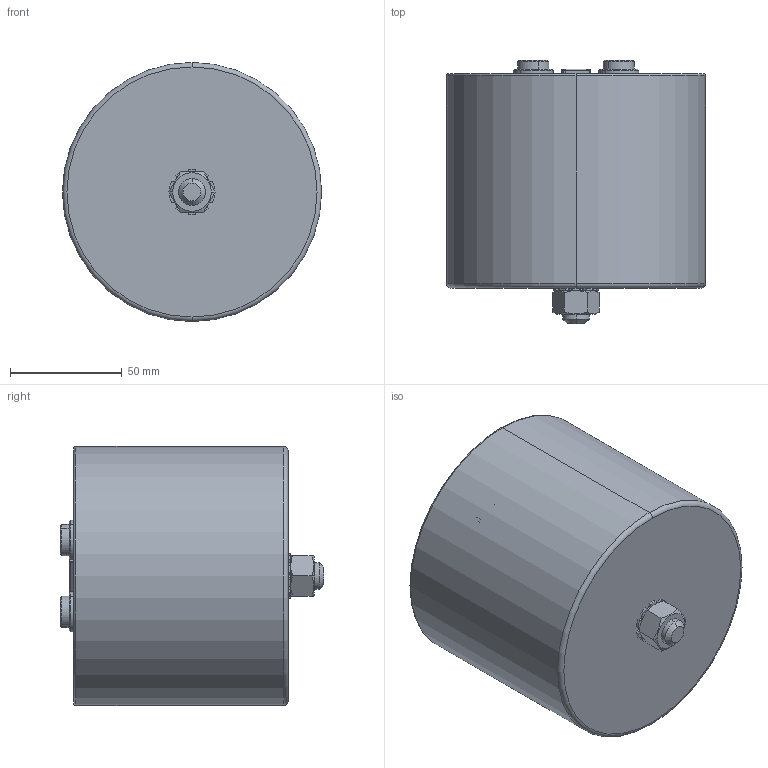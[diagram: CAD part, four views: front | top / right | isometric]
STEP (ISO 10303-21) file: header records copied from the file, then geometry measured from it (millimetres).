
FILE_DESCRIPTION (( 'STEP AP203' ), '1' );
FILE_NAME ('B25690Ax_116x96_102 .STEP', '2021-09-07T03:56:10', ( '' ), ( '' ), 'SwSTEP 2.0', 'SolidWorks 2017', '' );
FILE_SCHEMA (( 'CONFIG_CONTROL_DESIGN' ));
Length unit declared in the file: millimetre
Products named in the file (1): B25690Ax_116x96_102 
Bounding box: 116 x 118 x 116 mm (x, y, z)
Volume: 175794.7 mm3; surface area: 115231.6 mm2
Topology: 1 solids, 3 shells, 263 faces, 675 edges, 423 vertices
Faces by surface type: plane 135, cylinder 76, cone 40, torus 8, sphere 4
Entity records: 8245 total; most frequent: CARTESIAN_POINT 1902, DIRECTION 1342, ORIENTED_EDGE 1342, EDGE_CURVE 671, AXIS2_PLACEMENT_3D 527, VERTEX_POINT 423, VECTOR 288, LINE 288
